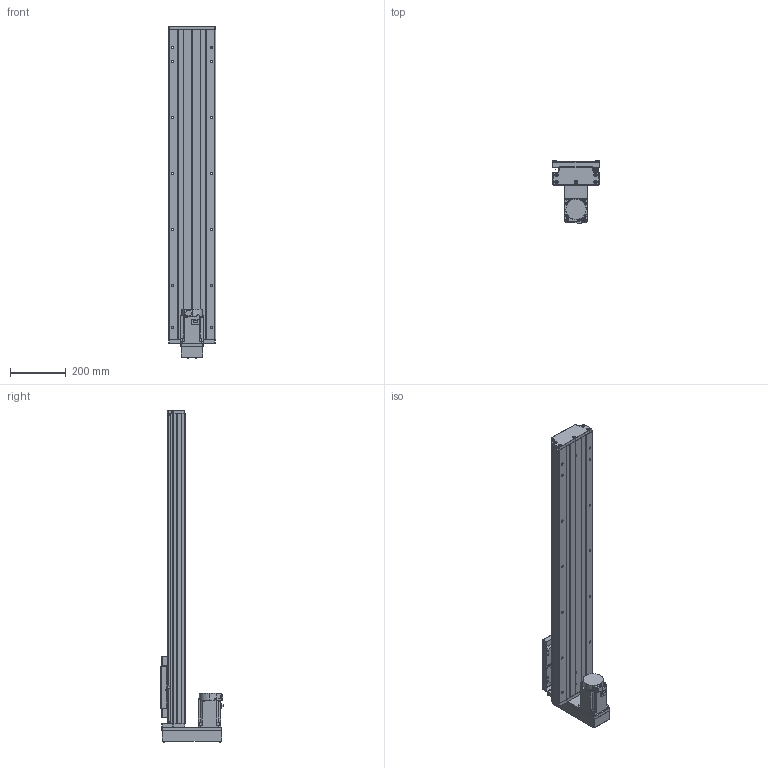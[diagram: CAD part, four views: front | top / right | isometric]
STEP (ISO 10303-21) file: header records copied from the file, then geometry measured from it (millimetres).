
FILE_DESCRIPTION (( 'STEP AP203' ), '1' );
FILE_NAME ('GTH17-850-BM-M75-C4.step', '2023-06-30T12:41:13', ( '微软用户' ), ( '微软中国' ), 'SwSTEP 2.0', 'SolidWorks 2020', '' );
FILE_SCHEMA (( 'CONFIG_CONTROL_DESIGN' ));
Length unit declared in the file: millimetre
Products named in the file (19): GBT77-2000 M3×3; GTH17-015-2_CTHA86-015-2; GTH17-005; GBT 70.1-M6¡Á20_M6¡Á20; GTH17-033; GB1155-6X6; GTH17-031; GTH17-850-BM-M75-C4; CTHA60-017; GBT 70.2-M3¡Á5_M3¡Á6; EE_SX911P_R; す晦芛蹟隊 M3℅5; GTH17-001_850; CTHA60-016; HG-KN73J-S100; GTH17-002_GTH17-002; GBT 70.1-M3℅5; GBT 70.2-M4¡Á45_M4¡Á35; GTH17-004
Assembly tree (58 placements, depth 2):
  GTH17-850-BM-M75-C4
    GTH17-001_850
    GTH17-002_GTH17-002
    GTH17-004
    GTH17-005
    GB1155-6X6  x2
    CTHA60-017  x3
    EE_SX911P_R  x3
    CTHA60-016  x2
    GBT 70.1-M3℅5  x6
    GBT77-2000 M3×3  x6
    GBT 70.1-M6¡Á20_M6¡Á20  x10
    GTH17-031
    GBT 70.2-M3¡Á5_M3¡Á6  x8
    す晦芛蹟隊 M3℅5  x6
    HG-KN73J-S100
    GBT 70.2-M4¡Á45_M4¡Á35  x4
    GTH17-015-2_CTHA86-015-2
    GTH17-033
Bounding box: 171 x 222.3 x 1188.2 mm (x, y, z)
Volume: 9810824 mm3; surface area: 1341700.9 mm2
Topology: 61 solids, 61 shells, 2459 faces, 5869 edges, 3635 vertices
Faces by surface type: plane 1312, cylinder 674, cone 297, torus 124, sphere 32, bspline 20
Entity records: 45046 total; most frequent: CARTESIAN_POINT 10416, DIRECTION 6541, ORIENTED_EDGE 6450, EDGE_CURVE 3225, AXIS2_PLACEMENT_3D 2238, VECTOR 2065, LINE 2065, VERTEX_POINT 2047
